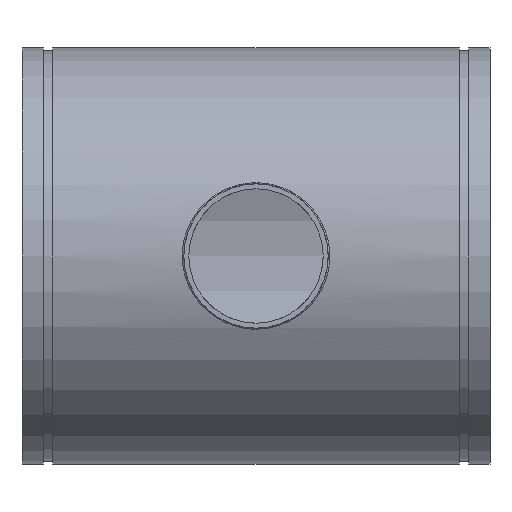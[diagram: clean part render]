
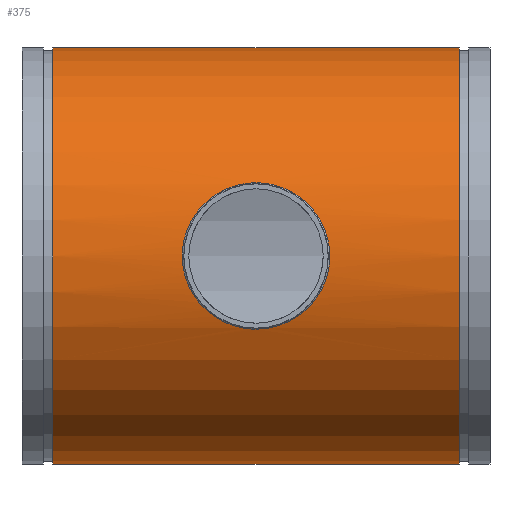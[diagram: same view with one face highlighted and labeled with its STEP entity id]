
A CAD part, front view. The second image highlights one B-rep face of the part: STEP entity #375.
In plain terms, the highlighted cylindrical face has radius 406.4 mm (diameter 812.8 mm), a full revolution.
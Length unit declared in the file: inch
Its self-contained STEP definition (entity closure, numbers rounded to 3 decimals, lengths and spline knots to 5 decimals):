
#54=FACE_BOUND('',#119,.T.);
#65=LINE('',#805,#76);
#76=VECTOR('',#483,16.);
#87=CYLINDRICAL_SURFACE('',#415,16.);
#98=FACE_OUTER_BOUND('',#118,.T.);
#118=EDGE_LOOP('',(#266,#267,#268,#269));
#119=EDGE_LOOP('',(#270));
#150=B_SPLINE_CURVE_WITH_KNOTS('',3,(#775,#776,#777,#778,#779,#780,#781,
#782,#783,#784,#785,#786,#787,#788,#789,#790,#791,#792,#793,#794,#795,#796,
#797,#798,#799,#800),.UNSPECIFIED.,.T.,.F.,(4,1,1,1,1,1,1,1,1,1,1,1,1,1,
1,1,1,1,1,1,1,1,1,4),(-85.7389,-82.67679,-79.61469,
-73.49048,-69.40768,-65.32487,-64.30417,
-63.28347,-61.24207,-57.15927,-53.07646,
-48.99366,-44.91085,-40.82805,-36.74524,
-32.66244,-28.57963,-24.49683,-20.41402,
-16.33122,-12.24841,-6.12421,-3.0621,
0.),.UNSPECIFIED.);
#154=CIRCLE('',#416,16.);
#155=CIRCLE('',#417,16.);
#182=VERTEX_POINT('',#741);
#185=VERTEX_POINT('',#802);
#186=VERTEX_POINT('',#804);
#219=EDGE_CURVE('',#182,#182,#150,.T.);
#220=EDGE_CURVE('',#185,#185,#154,.T.);
#221=EDGE_CURVE('',#185,#186,#65,.T.);
#222=EDGE_CURVE('',#186,#186,#155,.T.);
#266=ORIENTED_EDGE('',*,*,#220,.T.);
#267=ORIENTED_EDGE('',*,*,#221,.T.);
#268=ORIENTED_EDGE('',*,*,#222,.T.);
#269=ORIENTED_EDGE('',*,*,#221,.F.);
#270=ORIENTED_EDGE('',*,*,#219,.F.);
#375=ADVANCED_FACE('',(#98,#54),#87,.T.);
#415=AXIS2_PLACEMENT_3D('',#801,#479,#480);
#416=AXIS2_PLACEMENT_3D('',#803,#481,#482);
#417=AXIS2_PLACEMENT_3D('',#806,#484,#485);
#479=DIRECTION('center_axis',(-1.,0.,0.));
#480=DIRECTION('ref_axis',(0.,-1.,0.));
#481=DIRECTION('center_axis',(1.,0.,0.));
#482=DIRECTION('ref_axis',(0.,-1.,0.));
#483=DIRECTION('',(1.,0.,0.));
#484=DIRECTION('center_axis',(-1.,0.,0.));
#485=DIRECTION('ref_axis',(0.,-1.,0.));
#741=CARTESIAN_POINT('',(0.,-14.97637,-5.63101));
#775=CARTESIAN_POINT('Ctrl Pts',(0.,-14.97637,
-5.63101));
#776=CARTESIAN_POINT('Ctrl Pts',(0.42797,-14.97637,-5.63101));
#777=CARTESIAN_POINT('Ctrl Pts',(1.28349,-15.01325,-5.53424));
#778=CARTESIAN_POINT('Ctrl Pts',(2.89838,-15.21624,-4.96948));
#779=CARTESIAN_POINT('Ctrl Pts',(4.35508,-15.57114,-3.81316));
#780=CARTESIAN_POINT('Ctrl Pts',(5.35659,-15.88838,-2.10205));
#781=CARTESIAN_POINT('Ctrl Pts',(5.64851,-15.99087,-0.84943));
#782=CARTESIAN_POINT('Ctrl Pts',(5.68032,-16.00184,0.00007));
#783=CARTESIAN_POINT('Ctrl Pts',(5.65886,-15.99434,0.56616));
#784=CARTESIAN_POINT('Ctrl Pts',(5.50867,-15.94223,1.54782));
#785=CARTESIAN_POINT('Ctrl Pts',(4.9812,-15.76432,2.8691));
#786=CARTESIAN_POINT('Ctrl Pts',(3.91742,-15.45731,4.18803));
#787=CARTESIAN_POINT('Ctrl Pts',(2.51179,-15.15731,5.14314));
#788=CARTESIAN_POINT('Ctrl Pts',(0.86732,-14.96867,5.65207));
#789=CARTESIAN_POINT('Ctrl Pts',(-0.86737,-14.96866,5.65209));
#790=CARTESIAN_POINT('Ctrl Pts',(-2.51183,-15.15732,5.14308));
#791=CARTESIAN_POINT('Ctrl Pts',(-3.91752,-15.45737,4.18798));
#792=CARTESIAN_POINT('Ctrl Pts',(-4.98119,-15.76427,2.86903));
#793=CARTESIAN_POINT('Ctrl Pts',(-5.61437,-15.97803,1.28359));
#794=CARTESIAN_POINT('Ctrl Pts',(-5.74577,-16.02509,-0.43175));
#795=CARTESIAN_POINT('Ctrl Pts',(-5.35656,-15.88837,-2.10217));
#796=CARTESIAN_POINT('Ctrl Pts',(-4.35507,-15.57113,-3.8132));
#797=CARTESIAN_POINT('Ctrl Pts',(-2.89827,-15.21622,-4.96954));
#798=CARTESIAN_POINT('Ctrl Pts',(-1.28352,-15.01325,-5.53422));
#799=CARTESIAN_POINT('Ctrl Pts',(-0.42797,-14.97637,-5.63101));
#800=CARTESIAN_POINT('Ctrl Pts',(0.,-14.97637,
-5.63101));
#801=CARTESIAN_POINT('Origin',(18.,0.,0.));
#802=CARTESIAN_POINT('',(-15.625,16.,0.));
#803=CARTESIAN_POINT('Origin',(-15.625,0.,0.));
#804=CARTESIAN_POINT('',(15.625,16.,0.));
#805=CARTESIAN_POINT('',(18.,16.,0.));
#806=CARTESIAN_POINT('Origin',(15.625,0.,0.));
